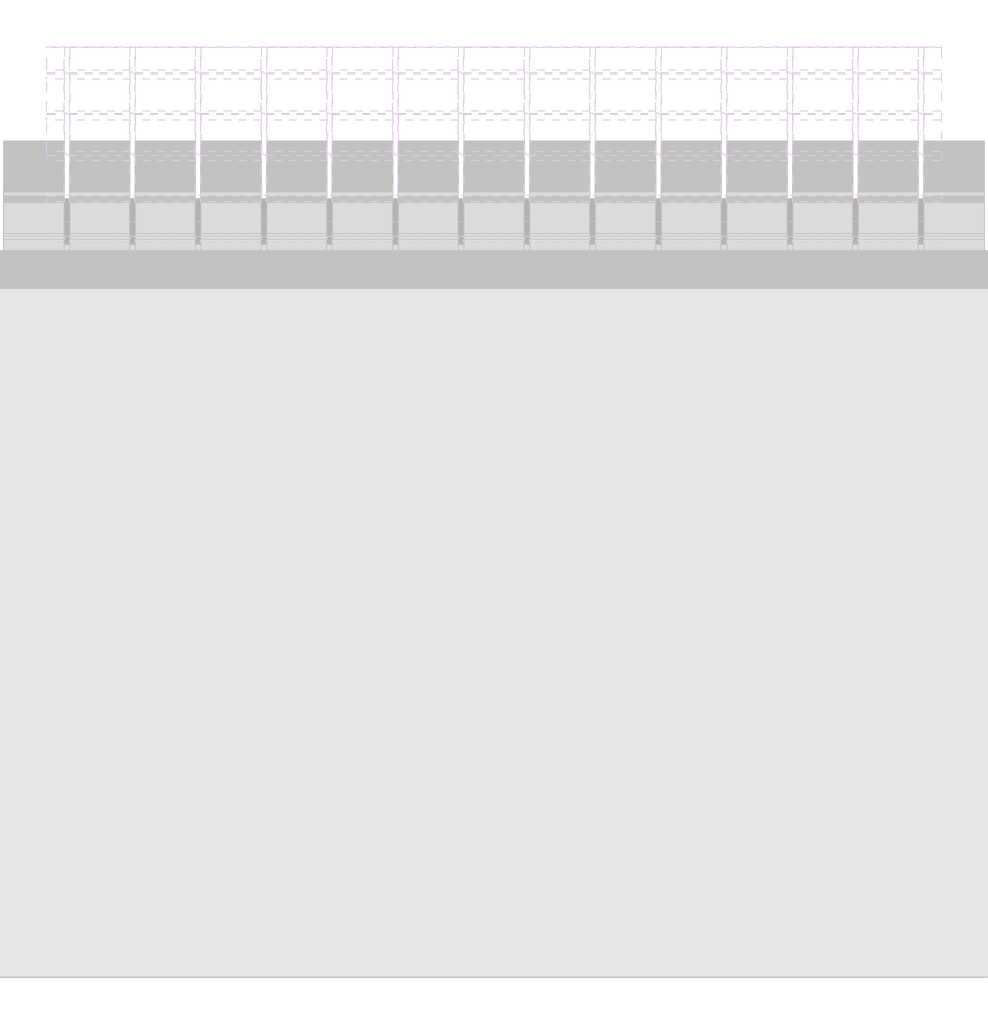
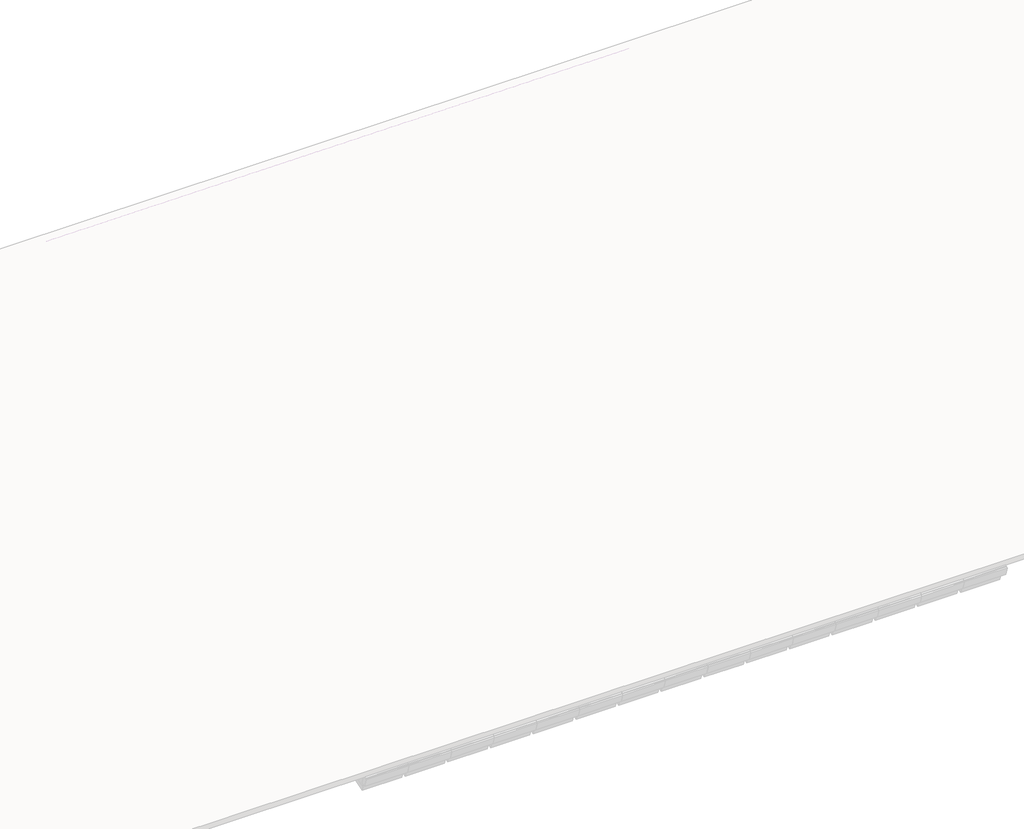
# One storey, part 18 of 57: 77 members, 47 plates.
"""IFC4 building model written with IfcOpenShell, lengths in millimetres."""

from ifc_helpers import new_model, si_unit, origin, place, context, project, spatial, transform, mapped, element, save
from components import rectangular_mullion_59984080, rectangular_mullion_2d2423ea, rectangular_mullion_caibro_e4384bba, rectangular_mullion_caibro_0993a3cf, rectangular_mullion_caibro_9bd7bc61, empty_system_panel_vazio_178faf58, empty_system_panel_vazio_2c78850d

model = new_model("IFC4")

# Units and contexts
model_context = context("Model", 3, world=origin())
ifc_project = project(units=[si_unit("LENGTHUNIT", "METRE", prefix="MILLI")], contexts=[model_context])

# Site, building, storey
site = spatial("IfcSite", under=ifc_project)
building = spatial("IfcBuilding", under=site)
storey = spatial("IfcBuildingStorey", under=building, Name="Nível 2", Elevation=4100.0)

# Members
placement = place(None, origin())
rectangular_mullion_shape = rectangular_mullion_59984080(model_context)
element("IfcMember", 1, ObjectType="Rectangular Mullion : Ripa", at=placement, inside=storey, context=model_context, shape_type="MappedRepresentation", body=[
    mapped(rectangular_mullion_shape, transform((14911.8852935, 9273.1150454, 3931.9836922), x_axis=(0.0, 0.9578262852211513, 0.2873478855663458), y_axis=(0.0, 0.2873478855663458, -0.9578262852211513), z_axis=(-1.0, 0.0, 0.0))),
])
element("IfcMember", 2, ObjectType="Rectangular Mullion : Ripa", at=placement, inside=storey, context=model_context, shape_type="MappedRepresentation", body=[
    mapped(rectangular_mullion_shape, transform((15508.9400499, 9273.1150454, 3931.9836922), x_axis=(0.0, 0.9578262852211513, 0.2873478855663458), y_axis=(0.0, 0.2873478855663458, -0.9578262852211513), z_axis=(-1.0, 0.0, 0.0))),
])
element("IfcMember", 3, ObjectType="Rectangular Mullion : Ripa", at=placement, inside=storey, context=model_context, shape_type="MappedRepresentation", body=[
    mapped(rectangular_mullion_shape, transform((14314.8305371, 9643.2923041, 4043.0368698), x_axis=(0.0, 0.9578262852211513, 0.2873478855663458), y_axis=(0.0, 0.2873478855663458, -0.9578262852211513), z_axis=(-1.0, 0.0, 0.0))),
])
element("IfcMember", 4, ObjectType="Rectangular Mullion : Ripa", at=placement, inside=storey, context=model_context, shape_type="MappedRepresentation", body=[
    mapped(rectangular_mullion_shape, transform((14911.8852935, 9643.2923041, 4043.0368698), x_axis=(0.0, 0.9578262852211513, 0.2873478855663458), y_axis=(0.0, 0.2873478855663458, -0.9578262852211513), z_axis=(-1.0, 0.0, 0.0))),
])
element("IfcMember", 5, ObjectType="Rectangular Mullion : Ripa", at=placement, inside=storey, context=model_context, shape_type="MappedRepresentation", body=[
    mapped(rectangular_mullion_shape, transform((15508.9400499, 9643.2923041, 4043.0368698), x_axis=(0.0, 0.9578262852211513, 0.2873478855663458), y_axis=(0.0, 0.2873478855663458, -0.9578262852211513), z_axis=(-1.0, 0.0, 0.0))),
])
element("IfcMember", 6, ObjectType="Rectangular Mullion : Ripa", at=placement, inside=storey, context=model_context, shape_type="MappedRepresentation", body=[
    mapped(rectangular_mullion_shape, transform((12523.6662678, 10013.4695628, 4154.0900474), x_axis=(0.0, 0.9578262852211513, 0.2873478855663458), y_axis=(0.0, 0.2873478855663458, -0.9578262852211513), z_axis=(-1.0, 0.0, 0.0))),
])
element("IfcMember", 7, ObjectType="Rectangular Mullion : Ripa", at=placement, inside=storey, context=model_context, shape_type="MappedRepresentation", body=[
    mapped(rectangular_mullion_shape, transform((13120.7210242, 10013.4695628, 4154.0900474), x_axis=(0.0, 0.9578262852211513, 0.2873478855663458), y_axis=(0.0, 0.2873478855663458, -0.9578262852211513), z_axis=(-1.0, 0.0, 0.0))),
])
element("IfcMember", 8, ObjectType="Rectangular Mullion : Ripa", at=placement, inside=storey, context=model_context, shape_type="MappedRepresentation", body=[
    mapped(rectangular_mullion_shape, transform((13717.7757807, 10013.4695628, 4154.0900474), x_axis=(0.0, 0.9578262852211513, 0.2873478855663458), y_axis=(0.0, 0.2873478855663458, -0.9578262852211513), z_axis=(-1.0, 0.0, 0.0))),
])
element("IfcMember", 9, ObjectType="Rectangular Mullion : Ripa", at=placement, inside=storey, context=model_context, shape_type="MappedRepresentation", body=[
    mapped(rectangular_mullion_shape, transform((14314.8305371, 10013.4695628, 4154.0900474), x_axis=(0.0, 0.9578262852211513, 0.2873478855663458), y_axis=(0.0, 0.2873478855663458, -0.9578262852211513), z_axis=(-1.0, 0.0, 0.0))),
])
element("IfcMember", 10, ObjectType="Rectangular Mullion : Ripa", at=placement, inside=storey, context=model_context, shape_type="MappedRepresentation", body=[
    mapped(rectangular_mullion_shape, transform((14911.8852935, 10013.4695628, 4154.0900474), x_axis=(0.0, 0.9578262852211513, 0.2873478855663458), y_axis=(0.0, 0.2873478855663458, -0.9578262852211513), z_axis=(-1.0, 0.0, 0.0))),
])
element("IfcMember", 11, ObjectType="Rectangular Mullion : Ripa", at=placement, inside=storey, context=model_context, shape_type="MappedRepresentation", body=[
    mapped(rectangular_mullion_shape, transform((15508.9400499, 10013.4695628, 4154.0900474), x_axis=(0.0, 0.9578262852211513, 0.2873478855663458), y_axis=(0.0, 0.2873478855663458, -0.9578262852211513), z_axis=(-1.0, 0.0, 0.0))),
])
element("IfcMember", 12, ObjectType="Rectangular Mullion : Ripa", at=placement, inside=storey, context=model_context, shape_type="MappedRepresentation", body=[
    mapped(rectangular_mullion_shape, transform((12523.6662678, 10383.6468214, 4265.143225), x_axis=(0.0, 0.9578262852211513, 0.2873478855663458), y_axis=(0.0, 0.2873478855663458, -0.9578262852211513), z_axis=(-1.0, 0.0, 0.0))),
])
element("IfcMember", 13, ObjectType="Rectangular Mullion : Ripa", at=placement, inside=storey, context=model_context, shape_type="MappedRepresentation", body=[
    mapped(rectangular_mullion_shape, transform((13120.7210242, 10383.6468214, 4265.143225), x_axis=(0.0, 0.9578262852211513, 0.2873478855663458), y_axis=(0.0, 0.2873478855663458, -0.9578262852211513), z_axis=(-1.0, 0.0, 0.0))),
])
element("IfcMember", 14, ObjectType="Rectangular Mullion : Ripa", at=placement, inside=storey, context=model_context, shape_type="MappedRepresentation", body=[
    mapped(rectangular_mullion_shape, transform((13717.7757807, 10383.6468214, 4265.143225), x_axis=(0.0, 0.9578262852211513, 0.2873478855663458), y_axis=(0.0, 0.2873478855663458, -0.9578262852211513), z_axis=(-1.0, 0.0, 0.0))),
])
element("IfcMember", 15, ObjectType="Rectangular Mullion : Ripa", at=placement, inside=storey, context=model_context, shape_type="MappedRepresentation", body=[
    mapped(rectangular_mullion_shape, transform((14314.8305371, 10383.6468214, 4265.143225), x_axis=(0.0, 0.9578262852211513, 0.2873478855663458), y_axis=(0.0, 0.2873478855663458, -0.9578262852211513), z_axis=(-1.0, 0.0, 0.0))),
])
element("IfcMember", 16, ObjectType="Rectangular Mullion : Ripa", at=placement, inside=storey, context=model_context, shape_type="MappedRepresentation", body=[
    mapped(rectangular_mullion_shape, transform((14911.8852935, 10383.6468214, 4265.143225), x_axis=(0.0, 0.9578262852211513, 0.2873478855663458), y_axis=(0.0, 0.2873478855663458, -0.9578262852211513), z_axis=(-1.0, 0.0, 0.0))),
])
element("IfcMember", 17, ObjectType="Rectangular Mullion : Ripa", at=placement, inside=storey, context=model_context, shape_type="MappedRepresentation", body=[
    mapped(rectangular_mullion_shape, transform((15508.9400499, 10383.6468214, 4265.143225), x_axis=(0.0, 0.9578262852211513, 0.2873478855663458), y_axis=(0.0, 0.2873478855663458, -0.9578262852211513), z_axis=(-1.0, 0.0, 0.0))),
])
element("IfcMember", 18, ObjectType="Rectangular Mullion : Ripa", at=placement, inside=storey, context=model_context, shape_type="MappedRepresentation", body=[
    mapped(rectangular_mullion_shape, transform((12523.6662678, 10753.8240801, 4376.1964026), x_axis=(0.0, 0.9578262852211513, 0.2873478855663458), y_axis=(0.0, 0.2873478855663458, -0.9578262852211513), z_axis=(-1.0, 0.0, 0.0))),
])
element("IfcMember", 19, ObjectType="Rectangular Mullion : Ripa", at=placement, inside=storey, context=model_context, shape_type="MappedRepresentation", body=[
    mapped(rectangular_mullion_shape, transform((13120.7210242, 10753.8240801, 4376.1964026), x_axis=(0.0, 0.9578262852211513, 0.2873478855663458), y_axis=(0.0, 0.2873478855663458, -0.9578262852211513), z_axis=(-1.0, 0.0, 0.0))),
])
element("IfcMember", 20, ObjectType="Rectangular Mullion : Ripa", at=placement, inside=storey, context=model_context, shape_type="MappedRepresentation", body=[
    mapped(rectangular_mullion_shape, transform((13717.7757807, 10753.8240801, 4376.1964026), x_axis=(0.0, 0.9578262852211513, 0.2873478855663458), y_axis=(0.0, 0.2873478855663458, -0.9578262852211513), z_axis=(-1.0, 0.0, 0.0))),
])
element("IfcMember", 21, ObjectType="Rectangular Mullion : Ripa", at=placement, inside=storey, context=model_context, shape_type="MappedRepresentation", body=[
    mapped(rectangular_mullion_shape, transform((14314.8305371, 10753.8240801, 4376.1964026), x_axis=(0.0, 0.9578262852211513, 0.2873478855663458), y_axis=(0.0, 0.2873478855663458, -0.9578262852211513), z_axis=(-1.0, 0.0, 0.0))),
])
element("IfcMember", 22, ObjectType="Rectangular Mullion : Ripa", at=placement, inside=storey, context=model_context, shape_type="MappedRepresentation", body=[
    mapped(rectangular_mullion_shape, transform((14911.8852935, 10753.8240801, 4376.1964026), x_axis=(0.0, 0.9578262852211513, 0.2873478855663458), y_axis=(0.0, 0.2873478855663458, -0.9578262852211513), z_axis=(-1.0, 0.0, 0.0))),
])
element("IfcMember", 23, ObjectType="Rectangular Mullion : Ripa", at=placement, inside=storey, context=model_context, shape_type="MappedRepresentation", body=[
    mapped(rectangular_mullion_shape, transform((15508.9400499, 10753.8240801, 4376.1964026), x_axis=(0.0, 0.9578262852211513, 0.2873478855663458), y_axis=(0.0, 0.2873478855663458, -0.9578262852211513), z_axis=(-1.0, 0.0, 0.0))),
])
element("IfcMember", 24, ObjectType="Rectangular Mullion : Ripa", at=placement, inside=storey, context=model_context, shape_type="MappedRepresentation", body=[
    mapped(rectangular_mullion_shape, transform((12523.6662678, 11124.0013387, 4487.2495802), x_axis=(0.0, 0.9578262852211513, 0.2873478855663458), y_axis=(0.0, 0.2873478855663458, -0.9578262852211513), z_axis=(-1.0, 0.0, 0.0))),
])
element("IfcMember", 25, ObjectType="Rectangular Mullion : Ripa", at=placement, inside=storey, context=model_context, shape_type="MappedRepresentation", body=[
    mapped(rectangular_mullion_shape, transform((13120.7210242, 11124.0013387, 4487.2495802), x_axis=(0.0, 0.9578262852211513, 0.2873478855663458), y_axis=(0.0, 0.2873478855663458, -0.9578262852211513), z_axis=(-1.0, 0.0, 0.0))),
])
element("IfcMember", 26, ObjectType="Rectangular Mullion : Ripa", at=placement, inside=storey, context=model_context, shape_type="MappedRepresentation", body=[
    mapped(rectangular_mullion_shape, transform((13717.7757807, 11124.0013387, 4487.2495802), x_axis=(0.0, 0.9578262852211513, 0.2873478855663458), y_axis=(0.0, 0.2873478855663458, -0.9578262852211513), z_axis=(-1.0, 0.0, 0.0))),
])
element("IfcMember", 27, ObjectType="Rectangular Mullion : Ripa", at=placement, inside=storey, context=model_context, shape_type="MappedRepresentation", body=[
    mapped(rectangular_mullion_shape, transform((12523.6662678, 11494.1785974, 4598.3027578), x_axis=(0.0, 0.9578262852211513, 0.2873478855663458), y_axis=(0.0, 0.2873478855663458, -0.9578262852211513), z_axis=(-1.0, 0.0, 0.0))),
])
element("IfcMember", 28, ObjectType="Rectangular Mullion : Ripa", at=placement, inside=storey, context=model_context, shape_type="MappedRepresentation", body=[
    mapped(rectangular_mullion_shape, transform((13120.7210242, 11494.1785974, 4598.3027578), x_axis=(0.0, 0.9578262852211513, 0.2873478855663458), y_axis=(0.0, 0.2873478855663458, -0.9578262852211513), z_axis=(-1.0, 0.0, 0.0))),
])
element("IfcMember", 29, ObjectType="Rectangular Mullion : Ripa", at=placement, inside=storey, context=model_context, shape_type="MappedRepresentation", body=[
    mapped(rectangular_mullion_shape, transform((13717.7757807, 11494.1785974, 4598.3027578), x_axis=(0.0, 0.9578262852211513, 0.2873478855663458), y_axis=(0.0, 0.2873478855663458, -0.9578262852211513), z_axis=(-1.0, 0.0, 0.0))),
])
element("IfcMember", 30, ObjectType="Rectangular Mullion : Ripa", at=placement, inside=storey, context=model_context, shape_type="MappedRepresentation", body=[
    mapped(rectangular_mullion_shape, transform((12523.6662678, 11864.3558561, 4709.3559354), x_axis=(0.0, 0.9578262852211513, 0.2873478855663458), y_axis=(0.0, 0.2873478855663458, -0.9578262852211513), z_axis=(-1.0, 0.0, 0.0))),
])
element("IfcMember", 31, ObjectType="Rectangular Mullion : Ripa", at=placement, inside=storey, context=model_context, shape_type="MappedRepresentation", body=[
    mapped(rectangular_mullion_shape, transform((13120.7210242, 11864.3558561, 4709.3559354), x_axis=(0.0, 0.9578262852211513, 0.2873478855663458), y_axis=(0.0, 0.2873478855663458, -0.9578262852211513), z_axis=(-1.0, 0.0, 0.0))),
])
element("IfcMember", 32, ObjectType="Rectangular Mullion : Ripa", at=placement, inside=storey, context=model_context, shape_type="MappedRepresentation", body=[
    mapped(rectangular_mullion_shape, transform((13717.7757807, 11864.3558561, 4709.3559354), x_axis=(0.0, 0.9578262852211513, 0.2873478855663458), y_axis=(0.0, 0.2873478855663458, -0.9578262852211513), z_axis=(-1.0, 0.0, 0.0))),
])
rectangular_mullion_2_shape = rectangular_mullion_2d2423ea(model_context)
element("IfcMember", 33, ObjectType="Rectangular Mullion : Terça", at=placement, inside=storey, context=model_context, shape_type="MappedRepresentation", body=[
    mapped(rectangular_mullion_2_shape, transform((14314.8305371, 9159.0196393, 3835.1132313), x_axis=(0.0, 0.9578262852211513, 0.2873478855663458), y_axis=(0.0, 0.2873478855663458, -0.9578262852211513), z_axis=(-1.0, 0.0, 0.0))),
])
element("IfcMember", 34, ObjectType="Rectangular Mullion : Terça", at=placement, inside=storey, context=model_context, shape_type="MappedRepresentation", body=[
    mapped(rectangular_mullion_2_shape, transform((14911.8852935, 9159.0196393, 3835.1132313), x_axis=(0.0, 0.9578262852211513, 0.2873478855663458), y_axis=(0.0, 0.2873478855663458, -0.9578262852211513), z_axis=(-1.0, 0.0, 0.0))),
])
element("IfcMember", 35, ObjectType="Rectangular Mullion : Terça", at=placement, inside=storey, context=model_context, shape_type="MappedRepresentation", body=[
    mapped(rectangular_mullion_2_shape, transform((15508.9400499, 9159.0196393, 3835.1132313), x_axis=(0.0, 0.9578262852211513, 0.2873478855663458), y_axis=(0.0, 0.2873478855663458, -0.9578262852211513), z_axis=(-1.0, 0.0, 0.0))),
])
element("IfcMember", 36, ObjectType="Rectangular Mullion : Terça", at=placement, inside=storey, context=model_context, shape_type="MappedRepresentation", body=[
    mapped(rectangular_mullion_2_shape, transform((12523.6662678, 11285.144311, 4472.9506328), x_axis=(0.0, 0.9578262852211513, 0.2873478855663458), y_axis=(0.0, 0.2873478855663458, -0.9578262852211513), z_axis=(-1.0, 0.0, 0.0))),
])
element("IfcMember", 37, ObjectType="Rectangular Mullion : Terça", at=placement, inside=storey, context=model_context, shape_type="MappedRepresentation", body=[
    mapped(rectangular_mullion_2_shape, transform((13120.7210242, 11285.144311, 4472.9506328), x_axis=(0.0, 0.9578262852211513, 0.2873478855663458), y_axis=(0.0, 0.2873478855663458, -0.9578262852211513), z_axis=(-1.0, 0.0, 0.0))),
])
element("IfcMember", 38, ObjectType="Rectangular Mullion : Terça", at=placement, inside=storey, context=model_context, shape_type="MappedRepresentation", body=[
    mapped(rectangular_mullion_2_shape, transform((13717.7757807, 11285.144311, 4472.9506328), x_axis=(0.0, 0.9578262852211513, 0.2873478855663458), y_axis=(0.0, 0.2873478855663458, -0.9578262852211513), z_axis=(-1.0, 0.0, 0.0))),
])
rectangular_mullion_caibro_shape = rectangular_mullion_caibro_e4384bba(model_context)
element("IfcMember", 39, ObjectType="Rectangular Mullion : Caibro", at=placement, inside=storey, context=model_context, shape_type="MappedRepresentation", body=[
    mapped(rectangular_mullion_caibro_shape, transform((12498.6662678, 10013.4695628, 4154.0900474), x_axis=(1.0, 0.0, 0.0), y_axis=(0.0, 0.28734788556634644, -0.9578262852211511), z_axis=(0.0, 0.957826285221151, 0.2873478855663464))),
])
element("IfcMember", 40, ObjectType="Rectangular Mullion : Caibro", at=placement, inside=storey, context=model_context, shape_type="MappedRepresentation", body=[
    mapped(rectangular_mullion_caibro_shape, transform((12498.6662678, 10383.6468214, 4265.143225), x_axis=(1.0, 0.0, 0.0), y_axis=(0.0, 0.28734788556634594, -0.9578262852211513), z_axis=(0.0, 0.9578262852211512, 0.2873478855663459))),
])
element("IfcMember", 41, ObjectType="Rectangular Mullion : Caibro", at=placement, inside=storey, context=model_context, shape_type="MappedRepresentation", body=[
    mapped(rectangular_mullion_caibro_shape, transform((12498.6662678, 10753.8240801, 4376.1964026), x_axis=(1.0, 0.0, 0.0), y_axis=(0.0, 0.28734788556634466, -0.9578262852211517), z_axis=(0.0, 0.9578262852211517, 0.28734788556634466))),
])
element("IfcMember", 42, ObjectType="Rectangular Mullion : Caibro", at=placement, inside=storey, context=model_context, shape_type="MappedRepresentation", body=[
    mapped(rectangular_mullion_caibro_shape, transform((12498.6662678, 11124.0013387, 4487.2495802), x_axis=(1.0, 0.0, 0.0), y_axis=(0.0, 0.2873478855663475, -0.9578262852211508), z_axis=(0.0, 0.9578262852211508, 0.2873478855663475))),
])
element("IfcMember", 43, ObjectType="Rectangular Mullion : Caibro", at=placement, inside=storey, context=model_context, shape_type="MappedRepresentation", body=[
    mapped(rectangular_mullion_caibro_shape, transform((12498.6662678, 11494.1785974, 4598.3027578), x_axis=(1.0, 0.0, 0.0), y_axis=(0.0, 0.28734788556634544, -0.9578262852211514), z_axis=(0.0, 0.9578262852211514, 0.28734788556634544))),
])
element("IfcMember", 44, ObjectType="Rectangular Mullion : Caibro", at=placement, inside=storey, context=model_context, shape_type="MappedRepresentation", body=[
    mapped(rectangular_mullion_caibro_shape, transform((12498.6662678, 11864.3558561, 4709.3559354), x_axis=(1.0, 0.0, 0.0), y_axis=(0.0, 0.28734788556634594, -0.9578262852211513), z_axis=(0.0, 0.9578262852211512, 0.2873478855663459))),
])
element("IfcMember", 45, ObjectType="Rectangular Mullion : Caibro", at=placement, inside=storey, context=model_context, shape_type="MappedRepresentation", body=[
    mapped(rectangular_mullion_caibro_shape, transform((13095.7210242, 10013.4695628, 4154.0900474), x_axis=(1.0, 0.0, 0.0), y_axis=(0.0, 0.28734788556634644, -0.9578262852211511), z_axis=(0.0, 0.957826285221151, 0.2873478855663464))),
])
element("IfcMember", 46, ObjectType="Rectangular Mullion : Caibro", at=placement, inside=storey, context=model_context, shape_type="MappedRepresentation", body=[
    mapped(rectangular_mullion_caibro_shape, transform((13095.7210242, 10383.6468214, 4265.143225), x_axis=(1.0, 0.0, 0.0), y_axis=(0.0, 0.28734788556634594, -0.9578262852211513), z_axis=(0.0, 0.9578262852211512, 0.2873478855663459))),
])
element("IfcMember", 47, ObjectType="Rectangular Mullion : Caibro", at=placement, inside=storey, context=model_context, shape_type="MappedRepresentation", body=[
    mapped(rectangular_mullion_caibro_shape, transform((13095.7210242, 10753.8240801, 4376.1964026), x_axis=(1.0, 0.0, 0.0), y_axis=(0.0, 0.28734788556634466, -0.9578262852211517), z_axis=(0.0, 0.9578262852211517, 0.28734788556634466))),
])
element("IfcMember", 48, ObjectType="Rectangular Mullion : Caibro", at=placement, inside=storey, context=model_context, shape_type="MappedRepresentation", body=[
    mapped(rectangular_mullion_caibro_shape, transform((13095.7210242, 11124.0013387, 4487.2495802), x_axis=(1.0, 0.0, 0.0), y_axis=(0.0, 0.2873478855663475, -0.9578262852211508), z_axis=(0.0, 0.9578262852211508, 0.2873478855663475))),
])
element("IfcMember", 49, ObjectType="Rectangular Mullion : Caibro", at=placement, inside=storey, context=model_context, shape_type="MappedRepresentation", body=[
    mapped(rectangular_mullion_caibro_shape, transform((13095.7210242, 11494.1785974, 4598.3027578), x_axis=(1.0, 0.0, 0.0), y_axis=(0.0, 0.28734788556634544, -0.9578262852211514), z_axis=(0.0, 0.9578262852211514, 0.28734788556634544))),
])
element("IfcMember", 50, ObjectType="Rectangular Mullion : Caibro", at=placement, inside=storey, context=model_context, shape_type="MappedRepresentation", body=[
    mapped(rectangular_mullion_caibro_shape, transform((13095.7210242, 11864.3558561, 4709.3559354), x_axis=(1.0, 0.0, 0.0), y_axis=(0.0, 0.28734788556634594, -0.9578262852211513), z_axis=(0.0, 0.9578262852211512, 0.2873478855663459))),
])
element("IfcMember", 51, ObjectType="Rectangular Mullion : Caibro", at=placement, inside=storey, context=model_context, shape_type="MappedRepresentation", body=[
    mapped(rectangular_mullion_caibro_shape, transform((13692.7757807, 10013.4695628, 4154.0900474), x_axis=(1.0, 0.0, 0.0), y_axis=(0.0, 0.28734788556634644, -0.9578262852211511), z_axis=(0.0, 0.957826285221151, 0.2873478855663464))),
])
element("IfcMember", 52, ObjectType="Rectangular Mullion : Caibro", at=placement, inside=storey, context=model_context, shape_type="MappedRepresentation", body=[
    mapped(rectangular_mullion_caibro_shape, transform((13692.7757807, 10383.6468214, 4265.143225), x_axis=(1.0, 0.0, 0.0), y_axis=(0.0, 0.28734788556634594, -0.9578262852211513), z_axis=(0.0, 0.9578262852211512, 0.2873478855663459))),
])
element("IfcMember", 53, ObjectType="Rectangular Mullion : Caibro", at=placement, inside=storey, context=model_context, shape_type="MappedRepresentation", body=[
    mapped(rectangular_mullion_caibro_shape, transform((13692.7757807, 10753.8240801, 4376.1964026), x_axis=(1.0, 0.0, 0.0), y_axis=(0.0, 0.28734788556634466, -0.9578262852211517), z_axis=(0.0, 0.9578262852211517, 0.28734788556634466))),
])
element("IfcMember", 54, ObjectType="Rectangular Mullion : Caibro", at=placement, inside=storey, context=model_context, shape_type="MappedRepresentation", body=[
    mapped(rectangular_mullion_caibro_shape, transform((13692.7757807, 11124.0013387, 4487.2495802), x_axis=(1.0, 0.0, 0.0), y_axis=(0.0, 0.2873478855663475, -0.9578262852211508), z_axis=(0.0, 0.9578262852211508, 0.2873478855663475))),
])
element("IfcMember", 55, ObjectType="Rectangular Mullion : Caibro", at=placement, inside=storey, context=model_context, shape_type="MappedRepresentation", body=[
    mapped(rectangular_mullion_caibro_shape, transform((13692.7757807, 11494.1785974, 4598.3027578), x_axis=(1.0, 0.0, 0.0), y_axis=(0.0, 0.28734788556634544, -0.9578262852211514), z_axis=(0.0, 0.9578262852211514, 0.28734788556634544))),
])
element("IfcMember", 56, ObjectType="Rectangular Mullion : Caibro", at=placement, inside=storey, context=model_context, shape_type="MappedRepresentation", body=[
    mapped(rectangular_mullion_caibro_shape, transform((13692.7757807, 11864.3558561, 4709.3559354), x_axis=(1.0, 0.0, 0.0), y_axis=(0.0, 0.28734788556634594, -0.9578262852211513), z_axis=(0.0, 0.9578262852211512, 0.2873478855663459))),
])
element("IfcMember", 57, ObjectType="Rectangular Mullion : Caibro", at=placement, inside=storey, context=model_context, shape_type="MappedRepresentation", body=[
    mapped(rectangular_mullion_caibro_shape, transform((14289.8305371, 10013.4695628, 4154.0900474), x_axis=(1.0, 0.0, 0.0), y_axis=(0.0, 0.28734788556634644, -0.9578262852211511), z_axis=(0.0, 0.957826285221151, 0.2873478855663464))),
])
element("IfcMember", 58, ObjectType="Rectangular Mullion : Caibro", at=placement, inside=storey, context=model_context, shape_type="MappedRepresentation", body=[
    mapped(rectangular_mullion_caibro_shape, transform((14289.8305371, 10383.6468214, 4265.143225), x_axis=(1.0, 0.0, 0.0), y_axis=(0.0, 0.28734788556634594, -0.9578262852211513), z_axis=(0.0, 0.9578262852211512, 0.2873478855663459))),
])
element("IfcMember", 59, ObjectType="Rectangular Mullion : Caibro", at=placement, inside=storey, context=model_context, shape_type="MappedRepresentation", body=[
    mapped(rectangular_mullion_caibro_shape, transform((14289.8305371, 10753.8240801, 4376.1964026), x_axis=(1.0, 0.0, 0.0), y_axis=(0.0, 0.28734788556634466, -0.9578262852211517), z_axis=(0.0, 0.9578262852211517, 0.28734788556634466))),
])
element("IfcMember", 60, ObjectType="Rectangular Mullion : Caibro", at=placement, inside=storey, context=model_context, shape_type="MappedRepresentation", body=[
    mapped(rectangular_mullion_caibro_shape, transform((14289.8305371, 11124.0013387, 4487.2495802), x_axis=(1.0, 0.0, 0.0), y_axis=(0.0, 0.2873478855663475, -0.9578262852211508), z_axis=(0.0, 0.9578262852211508, 0.2873478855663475))),
])
element("IfcMember", 61, ObjectType="Rectangular Mullion : Caibro", at=placement, inside=storey, context=model_context, shape_type="MappedRepresentation", body=[
    mapped(rectangular_mullion_caibro_shape, transform((14289.8305371, 11494.1785974, 4598.3027578), x_axis=(1.0, 0.0, 0.0), y_axis=(0.0, 0.28734788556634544, -0.9578262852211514), z_axis=(0.0, 0.9578262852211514, 0.28734788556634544))),
])
element("IfcMember", 62, ObjectType="Rectangular Mullion : Caibro", at=placement, inside=storey, context=model_context, shape_type="MappedRepresentation", body=[
    mapped(rectangular_mullion_caibro_shape, transform((14289.8305371, 11864.3558561, 4709.3559354), x_axis=(1.0, 0.0, 0.0), y_axis=(0.0, 0.28734788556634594, -0.9578262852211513), z_axis=(0.0, 0.9578262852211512, 0.2873478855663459))),
])
element("IfcMember", 63, ObjectType="Rectangular Mullion : Caibro", at=placement, inside=storey, context=model_context, shape_type="MappedRepresentation", body=[
    mapped(rectangular_mullion_caibro_shape, transform((14886.8852935, 10013.4695628, 4154.0900474), x_axis=(1.0, 0.0, 0.0), y_axis=(0.0, 0.28734788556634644, -0.9578262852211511), z_axis=(0.0, 0.957826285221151, 0.2873478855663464))),
])
element("IfcMember", 64, ObjectType="Rectangular Mullion : Caibro", at=placement, inside=storey, context=model_context, shape_type="MappedRepresentation", body=[
    mapped(rectangular_mullion_caibro_shape, transform((14886.8852935, 10383.6468214, 4265.143225), x_axis=(1.0, 0.0, 0.0), y_axis=(0.0, 0.28734788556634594, -0.9578262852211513), z_axis=(0.0, 0.9578262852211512, 0.2873478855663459))),
])
element("IfcMember", 65, ObjectType="Rectangular Mullion : Caibro", at=placement, inside=storey, context=model_context, shape_type="MappedRepresentation", body=[
    mapped(rectangular_mullion_caibro_shape, transform((14886.8852935, 10753.8240801, 4376.1964026), x_axis=(1.0, 0.0, 0.0), y_axis=(0.0, 0.28734788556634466, -0.9578262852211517), z_axis=(0.0, 0.9578262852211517, 0.28734788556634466))),
])
element("IfcMember", 66, ObjectType="Rectangular Mullion : Caibro", at=placement, inside=storey, context=model_context, shape_type="MappedRepresentation", body=[
    mapped(rectangular_mullion_caibro_shape, transform((14886.8852935, 11124.0013387, 4487.2495802), x_axis=(1.0, 0.0, 0.0), y_axis=(0.0, 0.2873478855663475, -0.9578262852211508), z_axis=(0.0, 0.9578262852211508, 0.2873478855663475))),
])
element("IfcMember", 67, ObjectType="Rectangular Mullion : Caibro", at=placement, inside=storey, context=model_context, shape_type="MappedRepresentation", body=[
    mapped(rectangular_mullion_caibro_shape, transform((15483.9400499, 9273.1150454, 3931.9836922), x_axis=(1.0, 0.0, 0.0), y_axis=(0.0, 0.2873478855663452, -0.9578262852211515), z_axis=(0.0, 0.9578262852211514, 0.28734788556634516))),
])
element("IfcMember", 68, ObjectType="Rectangular Mullion : Caibro", at=placement, inside=storey, context=model_context, shape_type="MappedRepresentation", body=[
    mapped(rectangular_mullion_caibro_shape, transform((15483.9400499, 9643.2923041, 4043.0368698), x_axis=(1.0, 0.0, 0.0), y_axis=(0.0, 0.2873478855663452, -0.9578262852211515), z_axis=(0.0, 0.9578262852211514, 0.28734788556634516))),
])
element("IfcMember", 69, ObjectType="Rectangular Mullion : Caibro", at=placement, inside=storey, context=model_context, shape_type="MappedRepresentation", body=[
    mapped(rectangular_mullion_caibro_shape, transform((15483.9400499, 10013.4695628, 4154.0900474), x_axis=(1.0, 0.0, 0.0), y_axis=(0.0, 0.28734788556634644, -0.9578262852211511), z_axis=(0.0, 0.957826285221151, 0.2873478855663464))),
])
element("IfcMember", 70, ObjectType="Rectangular Mullion : Caibro", at=placement, inside=storey, context=model_context, shape_type="MappedRepresentation", body=[
    mapped(rectangular_mullion_caibro_shape, transform((15483.9400499, 10383.6468214, 4265.143225), x_axis=(1.0, 0.0, 0.0), y_axis=(0.0, 0.28734788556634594, -0.9578262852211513), z_axis=(0.0, 0.9578262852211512, 0.2873478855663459))),
])
element("IfcMember", 71, ObjectType="Rectangular Mullion : Caibro", at=placement, inside=storey, context=model_context, shape_type="MappedRepresentation", body=[
    mapped(rectangular_mullion_caibro_shape, transform((15483.9400499, 10753.8240801, 4376.1964026), x_axis=(1.0, 0.0, 0.0), y_axis=(0.0, 0.28734788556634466, -0.9578262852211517), z_axis=(0.0, 0.9578262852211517, 0.28734788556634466))),
])
rectangular_mullion_caibro_2_shape = rectangular_mullion_caibro_0993a3cf(model_context)
element("IfcMember", 72, ObjectType="Rectangular Mullion : Caibro", at=placement, inside=storey, context=model_context, shape_type="MappedRepresentation", body=[
    mapped(rectangular_mullion_caibro_2_shape, transform((14289.8305371, 9159.0196393, 3835.1132313), x_axis=(1.0, 0.0, 0.0), y_axis=(0.0, 0.2873478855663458, -0.9578262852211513), z_axis=(0.0, 0.9578262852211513, 0.2873478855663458))),
])
element("IfcMember", 73, ObjectType="Rectangular Mullion : Caibro", at=placement, inside=storey, context=model_context, shape_type="MappedRepresentation", body=[
    mapped(rectangular_mullion_caibro_2_shape, transform((14886.8852935, 9159.0196393, 3835.1132313), x_axis=(1.0, 0.0, 0.0), y_axis=(0.0, 0.2873478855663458, -0.9578262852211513), z_axis=(0.0, 0.9578262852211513, 0.2873478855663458))),
])
element("IfcMember", 74, ObjectType="Rectangular Mullion : Caibro", at=placement, inside=storey, context=model_context, shape_type="MappedRepresentation", body=[
    mapped(rectangular_mullion_caibro_2_shape, transform((15483.9400499, 9159.0196393, 3835.1132313), x_axis=(1.0, 0.0, 0.0), y_axis=(0.0, 0.2873478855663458, -0.9578262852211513), z_axis=(0.0, 0.9578262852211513, 0.2873478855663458))),
])
rectangular_mullion_caibro_3_shape = rectangular_mullion_caibro_9bd7bc61(model_context)
element("IfcMember", 75, ObjectType="Rectangular Mullion : Caibro", at=placement, inside=storey, context=model_context, shape_type="MappedRepresentation", body=[
    mapped(rectangular_mullion_caibro_3_shape, transform((12498.6662678, 11285.144311, 4472.9506328), x_axis=(1.0, 0.0, 0.0), y_axis=(0.0, 0.28734788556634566, -0.9578262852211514), z_axis=(0.0, 0.9578262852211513, 0.2873478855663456))),
])
element("IfcMember", 76, ObjectType="Rectangular Mullion : Caibro", at=placement, inside=storey, context=model_context, shape_type="MappedRepresentation", body=[
    mapped(rectangular_mullion_caibro_3_shape, transform((13095.7210242, 11285.144311, 4472.9506328), x_axis=(1.0, 0.0, 0.0), y_axis=(0.0, 0.28734788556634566, -0.9578262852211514), z_axis=(0.0, 0.9578262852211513, 0.2873478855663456))),
])
element("IfcMember", 77, ObjectType="Rectangular Mullion : Caibro", at=placement, inside=storey, context=model_context, shape_type="MappedRepresentation", body=[
    mapped(rectangular_mullion_caibro_3_shape, transform((13692.7757807, 11285.144311, 4472.9506328), x_axis=(1.0, 0.0, 0.0), y_axis=(0.0, 0.28734788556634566, -0.9578262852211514), z_axis=(0.0, 0.9578262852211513, 0.2873478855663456))),
])

# Plates
empty_system_panel_vazio_shape = empty_system_panel_vazio_178faf58(model_context)
element("IfcPlate", 78, ObjectType="Empty System Panel : Vazio", at=placement, inside=storey, context=model_context, shape_type="MappedRepresentation", body=[
    mapped(empty_system_panel_vazio_shape, transform((15185.4126717, 9273.1150454, 3931.9836922), x_axis=(1.0, 0.0, 0.0), y_axis=(0.0, 0.2873478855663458, -0.9578262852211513), z_axis=(0.0, 0.9578262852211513, 0.2873478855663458))),
])
element("IfcPlate", 79, ObjectType="Empty System Panel : Vazio", at=placement, inside=storey, context=model_context, shape_type="MappedRepresentation", body=[
    mapped(empty_system_panel_vazio_shape, transform((15782.4674281, 9273.1150454, 3931.9836922), x_axis=(1.0, 0.0, 0.0), y_axis=(0.0, 0.2873478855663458, -0.9578262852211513), z_axis=(0.0, 0.9578262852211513, 0.2873478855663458))),
])
element("IfcPlate", 80, ObjectType="Empty System Panel : Vazio", at=placement, inside=storey, context=model_context, shape_type="MappedRepresentation", body=[
    mapped(empty_system_panel_vazio_shape, transform((15185.4126717, 9643.2923041, 4043.0368698), x_axis=(1.0, 0.0, 0.0), y_axis=(0.0, 0.2873478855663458, -0.9578262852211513), z_axis=(0.0, 0.9578262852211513, 0.2873478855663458))),
])
element("IfcPlate", 81, ObjectType="Empty System Panel : Vazio", at=placement, inside=storey, context=model_context, shape_type="MappedRepresentation", body=[
    mapped(empty_system_panel_vazio_shape, transform((15782.4674281, 9643.2923041, 4043.0368698), x_axis=(1.0, 0.0, 0.0), y_axis=(0.0, 0.2873478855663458, -0.9578262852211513), z_axis=(0.0, 0.9578262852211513, 0.2873478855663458))),
])
element("IfcPlate", 82, ObjectType="Empty System Panel : Vazio", at=placement, inside=storey, context=model_context, shape_type="MappedRepresentation", body=[
    mapped(empty_system_panel_vazio_shape, transform((12200.1388896, 10013.4695628, 4154.0900474), x_axis=(1.0, 0.0, 0.0), y_axis=(0.0, 0.2873478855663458, -0.9578262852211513), z_axis=(0.0, 0.9578262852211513, 0.2873478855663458))),
])
element("IfcPlate", 83, ObjectType="Empty System Panel : Vazio", at=placement, inside=storey, context=model_context, shape_type="MappedRepresentation", body=[
    mapped(empty_system_panel_vazio_shape, transform((12797.193646, 10013.4695628, 4154.0900474), x_axis=(1.0, 0.0, 0.0), y_axis=(0.0, 0.2873478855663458, -0.9578262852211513), z_axis=(0.0, 0.9578262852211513, 0.2873478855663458))),
])
element("IfcPlate", 84, ObjectType="Empty System Panel : Vazio", at=placement, inside=storey, context=model_context, shape_type="MappedRepresentation", body=[
    mapped(empty_system_panel_vazio_shape, transform((13394.2484024, 10013.4695628, 4154.0900474), x_axis=(1.0, 0.0, 0.0), y_axis=(0.0, 0.2873478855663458, -0.9578262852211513), z_axis=(0.0, 0.9578262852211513, 0.2873478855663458))),
])
element("IfcPlate", 85, ObjectType="Empty System Panel : Vazio", at=placement, inside=storey, context=model_context, shape_type="MappedRepresentation", body=[
    mapped(empty_system_panel_vazio_shape, transform((13991.3031589, 10013.4695628, 4154.0900474), x_axis=(1.0, 0.0, 0.0), y_axis=(0.0, 0.2873478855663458, -0.9578262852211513), z_axis=(0.0, 0.9578262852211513, 0.2873478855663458))),
])
element("IfcPlate", 86, ObjectType="Empty System Panel : Vazio", at=placement, inside=storey, context=model_context, shape_type="MappedRepresentation", body=[
    mapped(empty_system_panel_vazio_shape, transform((14588.3579153, 10013.4695628, 4154.0900474), x_axis=(1.0, 0.0, 0.0), y_axis=(0.0, 0.2873478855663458, -0.9578262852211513), z_axis=(0.0, 0.9578262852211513, 0.2873478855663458))),
])
element("IfcPlate", 87, ObjectType="Empty System Panel : Vazio", at=placement, inside=storey, context=model_context, shape_type="MappedRepresentation", body=[
    mapped(empty_system_panel_vazio_shape, transform((15185.4126717, 10013.4695628, 4154.0900474), x_axis=(1.0, 0.0, 0.0), y_axis=(0.0, 0.2873478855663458, -0.9578262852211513), z_axis=(0.0, 0.9578262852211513, 0.2873478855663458))),
])
element("IfcPlate", 88, ObjectType="Empty System Panel : Vazio", at=placement, inside=storey, context=model_context, shape_type="MappedRepresentation", body=[
    mapped(empty_system_panel_vazio_shape, transform((15782.4674281, 10013.4695628, 4154.0900474), x_axis=(1.0, 0.0, 0.0), y_axis=(0.0, 0.2873478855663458, -0.9578262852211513), z_axis=(0.0, 0.9578262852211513, 0.2873478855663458))),
])
element("IfcPlate", 89, ObjectType="Empty System Panel : Vazio", at=placement, inside=storey, context=model_context, shape_type="MappedRepresentation", body=[
    mapped(empty_system_panel_vazio_shape, transform((12200.1388896, 10383.6468214, 4265.143225), x_axis=(1.0, 0.0, 0.0), y_axis=(0.0, 0.2873478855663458, -0.9578262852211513), z_axis=(0.0, 0.9578262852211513, 0.2873478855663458))),
])
element("IfcPlate", 90, ObjectType="Empty System Panel : Vazio", at=placement, inside=storey, context=model_context, shape_type="MappedRepresentation", body=[
    mapped(empty_system_panel_vazio_shape, transform((12797.193646, 10383.6468214, 4265.143225), x_axis=(1.0, 0.0, 0.0), y_axis=(0.0, 0.2873478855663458, -0.9578262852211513), z_axis=(0.0, 0.9578262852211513, 0.2873478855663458))),
])
element("IfcPlate", 91, ObjectType="Empty System Panel : Vazio", at=placement, inside=storey, context=model_context, shape_type="MappedRepresentation", body=[
    mapped(empty_system_panel_vazio_shape, transform((13394.2484024, 10383.6468214, 4265.143225), x_axis=(1.0, 0.0, 0.0), y_axis=(0.0, 0.2873478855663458, -0.9578262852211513), z_axis=(0.0, 0.9578262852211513, 0.2873478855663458))),
])
element("IfcPlate", 92, ObjectType="Empty System Panel : Vazio", at=placement, inside=storey, context=model_context, shape_type="MappedRepresentation", body=[
    mapped(empty_system_panel_vazio_shape, transform((13991.3031589, 10383.6468214, 4265.143225), x_axis=(1.0, 0.0, 0.0), y_axis=(0.0, 0.2873478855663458, -0.9578262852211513), z_axis=(0.0, 0.9578262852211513, 0.2873478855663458))),
])
element("IfcPlate", 93, ObjectType="Empty System Panel : Vazio", at=placement, inside=storey, context=model_context, shape_type="MappedRepresentation", body=[
    mapped(empty_system_panel_vazio_shape, transform((14588.3579153, 10383.6468214, 4265.143225), x_axis=(1.0, 0.0, 0.0), y_axis=(0.0, 0.2873478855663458, -0.9578262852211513), z_axis=(0.0, 0.9578262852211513, 0.2873478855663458))),
])
element("IfcPlate", 94, ObjectType="Empty System Panel : Vazio", at=placement, inside=storey, context=model_context, shape_type="MappedRepresentation", body=[
    mapped(empty_system_panel_vazio_shape, transform((15185.4126717, 10383.6468214, 4265.143225), x_axis=(1.0, 0.0, 0.0), y_axis=(0.0, 0.2873478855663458, -0.9578262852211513), z_axis=(0.0, 0.9578262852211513, 0.2873478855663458))),
])
element("IfcPlate", 95, ObjectType="Empty System Panel : Vazio", at=placement, inside=storey, context=model_context, shape_type="MappedRepresentation", body=[
    mapped(empty_system_panel_vazio_shape, transform((15782.4674281, 10383.6468214, 4265.143225), x_axis=(1.0, 0.0, 0.0), y_axis=(0.0, 0.2873478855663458, -0.9578262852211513), z_axis=(0.0, 0.9578262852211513, 0.2873478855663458))),
])
element("IfcPlate", 96, ObjectType="Empty System Panel : Vazio", at=placement, inside=storey, context=model_context, shape_type="MappedRepresentation", body=[
    mapped(empty_system_panel_vazio_shape, transform((12200.1388896, 10753.8240801, 4376.1964026), x_axis=(1.0, 0.0, 0.0), y_axis=(0.0, 0.2873478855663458, -0.9578262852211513), z_axis=(0.0, 0.9578262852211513, 0.2873478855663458))),
])
element("IfcPlate", 97, ObjectType="Empty System Panel : Vazio", at=placement, inside=storey, context=model_context, shape_type="MappedRepresentation", body=[
    mapped(empty_system_panel_vazio_shape, transform((12797.193646, 10753.8240801, 4376.1964026), x_axis=(1.0, 0.0, 0.0), y_axis=(0.0, 0.2873478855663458, -0.9578262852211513), z_axis=(0.0, 0.9578262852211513, 0.2873478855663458))),
])
element("IfcPlate", 98, ObjectType="Empty System Panel : Vazio", at=placement, inside=storey, context=model_context, shape_type="MappedRepresentation", body=[
    mapped(empty_system_panel_vazio_shape, transform((13394.2484024, 10753.8240801, 4376.1964026), x_axis=(1.0, 0.0, 0.0), y_axis=(0.0, 0.2873478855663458, -0.9578262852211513), z_axis=(0.0, 0.9578262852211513, 0.2873478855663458))),
])
element("IfcPlate", 99, ObjectType="Empty System Panel : Vazio", at=placement, inside=storey, context=model_context, shape_type="MappedRepresentation", body=[
    mapped(empty_system_panel_vazio_shape, transform((13991.3031589, 10753.8240801, 4376.1964026), x_axis=(1.0, 0.0, 0.0), y_axis=(0.0, 0.2873478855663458, -0.9578262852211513), z_axis=(0.0, 0.9578262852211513, 0.2873478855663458))),
])
element("IfcPlate", 100, ObjectType="Empty System Panel : Vazio", at=placement, inside=storey, context=model_context, shape_type="MappedRepresentation", body=[
    mapped(empty_system_panel_vazio_shape, transform((14588.3579153, 10753.8240801, 4376.1964026), x_axis=(1.0, 0.0, 0.0), y_axis=(0.0, 0.2873478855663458, -0.9578262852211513), z_axis=(0.0, 0.9578262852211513, 0.2873478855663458))),
])
element("IfcPlate", 101, ObjectType="Empty System Panel : Vazio", at=placement, inside=storey, context=model_context, shape_type="MappedRepresentation", body=[
    mapped(empty_system_panel_vazio_shape, transform((15185.4126717, 10753.8240801, 4376.1964026), x_axis=(1.0, 0.0, 0.0), y_axis=(0.0, 0.2873478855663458, -0.9578262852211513), z_axis=(0.0, 0.9578262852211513, 0.2873478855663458))),
])
element("IfcPlate", 102, ObjectType="Empty System Panel : Vazio", at=placement, inside=storey, context=model_context, shape_type="MappedRepresentation", body=[
    mapped(empty_system_panel_vazio_shape, transform((15782.4674281, 10753.8240801, 4376.1964026), x_axis=(1.0, 0.0, 0.0), y_axis=(0.0, 0.2873478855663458, -0.9578262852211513), z_axis=(0.0, 0.9578262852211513, 0.2873478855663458))),
])
element("IfcPlate", 103, ObjectType="Empty System Panel : Vazio", at=placement, inside=storey, context=model_context, shape_type="MappedRepresentation", body=[
    mapped(empty_system_panel_vazio_shape, transform((12200.1388896, 11124.0013387, 4487.2495802), x_axis=(1.0, 0.0, 0.0), y_axis=(0.0, 0.2873478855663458, -0.9578262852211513), z_axis=(0.0, 0.9578262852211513, 0.2873478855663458))),
])
element("IfcPlate", 104, ObjectType="Empty System Panel : Vazio", at=placement, inside=storey, context=model_context, shape_type="MappedRepresentation", body=[
    mapped(empty_system_panel_vazio_shape, transform((12797.193646, 11124.0013387, 4487.2495802), x_axis=(1.0, 0.0, 0.0), y_axis=(0.0, 0.2873478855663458, -0.9578262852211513), z_axis=(0.0, 0.9578262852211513, 0.2873478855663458))),
])
element("IfcPlate", 105, ObjectType="Empty System Panel : Vazio", at=placement, inside=storey, context=model_context, shape_type="MappedRepresentation", body=[
    mapped(empty_system_panel_vazio_shape, transform((13394.2484024, 11124.0013387, 4487.2495802), x_axis=(1.0, 0.0, 0.0), y_axis=(0.0, 0.2873478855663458, -0.9578262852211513), z_axis=(0.0, 0.9578262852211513, 0.2873478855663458))),
])
element("IfcPlate", 106, ObjectType="Empty System Panel : Vazio", at=placement, inside=storey, context=model_context, shape_type="MappedRepresentation", body=[
    mapped(empty_system_panel_vazio_shape, transform((13991.3031589, 11124.0013387, 4487.2495802), x_axis=(1.0, 0.0, 0.0), y_axis=(0.0, 0.2873478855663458, -0.9578262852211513), z_axis=(0.0, 0.9578262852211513, 0.2873478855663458))),
])
element("IfcPlate", 107, ObjectType="Empty System Panel : Vazio", at=placement, inside=storey, context=model_context, shape_type="MappedRepresentation", body=[
    mapped(empty_system_panel_vazio_shape, transform((14588.3579153, 11124.0013387, 4487.2495802), x_axis=(1.0, 0.0, 0.0), y_axis=(0.0, 0.2873478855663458, -0.9578262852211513), z_axis=(0.0, 0.9578262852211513, 0.2873478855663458))),
])
element("IfcPlate", 108, ObjectType="Empty System Panel : Vazio", at=placement, inside=storey, context=model_context, shape_type="MappedRepresentation", body=[
    mapped(empty_system_panel_vazio_shape, transform((12200.1388896, 11494.1785974, 4598.3027578), x_axis=(1.0, 0.0, 0.0), y_axis=(0.0, 0.2873478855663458, -0.9578262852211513), z_axis=(0.0, 0.9578262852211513, 0.2873478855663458))),
])
element("IfcPlate", 109, ObjectType="Empty System Panel : Vazio", at=placement, inside=storey, context=model_context, shape_type="MappedRepresentation", body=[
    mapped(empty_system_panel_vazio_shape, transform((12797.193646, 11494.1785974, 4598.3027578), x_axis=(1.0, 0.0, 0.0), y_axis=(0.0, 0.2873478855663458, -0.9578262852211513), z_axis=(0.0, 0.9578262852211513, 0.2873478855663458))),
])
element("IfcPlate", 110, ObjectType="Empty System Panel : Vazio", at=placement, inside=storey, context=model_context, shape_type="MappedRepresentation", body=[
    mapped(empty_system_panel_vazio_shape, transform((13394.2484024, 11494.1785974, 4598.3027578), x_axis=(1.0, 0.0, 0.0), y_axis=(0.0, 0.2873478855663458, -0.9578262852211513), z_axis=(0.0, 0.9578262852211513, 0.2873478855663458))),
])
element("IfcPlate", 111, ObjectType="Empty System Panel : Vazio", at=placement, inside=storey, context=model_context, shape_type="MappedRepresentation", body=[
    mapped(empty_system_panel_vazio_shape, transform((13991.3031589, 11494.1785974, 4598.3027578), x_axis=(1.0, 0.0, 0.0), y_axis=(0.0, 0.2873478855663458, -0.9578262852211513), z_axis=(0.0, 0.9578262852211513, 0.2873478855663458))),
])
element("IfcPlate", 112, ObjectType="Empty System Panel : Vazio", at=placement, inside=storey, context=model_context, shape_type="MappedRepresentation", body=[
    mapped(empty_system_panel_vazio_shape, transform((14588.3579153, 11494.1785974, 4598.3027578), x_axis=(1.0, 0.0, 0.0), y_axis=(0.0, 0.2873478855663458, -0.9578262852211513), z_axis=(0.0, 0.9578262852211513, 0.2873478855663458))),
])
element("IfcPlate", 113, ObjectType="Empty System Panel : Vazio", at=placement, inside=storey, context=model_context, shape_type="MappedRepresentation", body=[
    mapped(empty_system_panel_vazio_shape, transform((12200.1388896, 11864.3558561, 4709.3559354), x_axis=(1.0, 0.0, 0.0), y_axis=(0.0, 0.2873478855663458, -0.9578262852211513), z_axis=(0.0, 0.9578262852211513, 0.2873478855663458))),
])
element("IfcPlate", 114, ObjectType="Empty System Panel : Vazio", at=placement, inside=storey, context=model_context, shape_type="MappedRepresentation", body=[
    mapped(empty_system_panel_vazio_shape, transform((12797.193646, 11864.3558561, 4709.3559354), x_axis=(1.0, 0.0, 0.0), y_axis=(0.0, 0.2873478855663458, -0.9578262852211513), z_axis=(0.0, 0.9578262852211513, 0.2873478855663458))),
])
element("IfcPlate", 115, ObjectType="Empty System Panel : Vazio", at=placement, inside=storey, context=model_context, shape_type="MappedRepresentation", body=[
    mapped(empty_system_panel_vazio_shape, transform((13394.2484024, 11864.3558561, 4709.3559354), x_axis=(1.0, 0.0, 0.0), y_axis=(0.0, 0.2873478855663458, -0.9578262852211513), z_axis=(0.0, 0.9578262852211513, 0.2873478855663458))),
])
element("IfcPlate", 116, ObjectType="Empty System Panel : Vazio", at=placement, inside=storey, context=model_context, shape_type="MappedRepresentation", body=[
    mapped(empty_system_panel_vazio_shape, transform((13991.3031589, 11864.3558561, 4709.3559354), x_axis=(1.0, 0.0, 0.0), y_axis=(0.0, 0.2873478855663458, -0.9578262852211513), z_axis=(0.0, 0.9578262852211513, 0.2873478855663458))),
])
element("IfcPlate", 117, ObjectType="Empty System Panel : Vazio", at=placement, inside=storey, context=model_context, shape_type="MappedRepresentation", body=[
    mapped(empty_system_panel_vazio_shape, transform((14588.3579153, 11864.3558561, 4709.3559354), x_axis=(1.0, 0.0, 0.0), y_axis=(0.0, 0.2873478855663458, -0.9578262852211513), z_axis=(0.0, 0.9578262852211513, 0.2873478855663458))),
])
empty_system_panel_vazio_2_shape = empty_system_panel_vazio_2c78850d(model_context)
element("IfcPlate", 118, ObjectType="Empty System Panel : Vazio", at=placement, inside=storey, context=model_context, shape_type="MappedRepresentation", body=[
    mapped(empty_system_panel_vazio_2_shape, transform((14588.3579153, 9187.7544279, 3843.7336679), x_axis=(1.0, 0.0, 0.0), y_axis=(0.0, 0.2873478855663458, -0.9578262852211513), z_axis=(0.0, 0.9578262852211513, 0.2873478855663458))),
])
element("IfcPlate", 119, ObjectType="Empty System Panel : Vazio", at=placement, inside=storey, context=model_context, shape_type="MappedRepresentation", body=[
    mapped(empty_system_panel_vazio_2_shape, transform((15185.4126717, 9187.7544279, 3843.7336679), x_axis=(1.0, 0.0, 0.0), y_axis=(0.0, 0.2873478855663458, -0.9578262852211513), z_axis=(0.0, 0.9578262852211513, 0.2873478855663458))),
])
element("IfcPlate", 120, ObjectType="Empty System Panel : Vazio", at=placement, inside=storey, context=model_context, shape_type="MappedRepresentation", body=[
    mapped(empty_system_panel_vazio_2_shape, transform((15782.4674281, 9187.7544279, 3843.7336679), x_axis=(1.0, 0.0, 0.0), y_axis=(0.0, 0.2873478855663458, -0.9578262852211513), z_axis=(0.0, 0.9578262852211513, 0.2873478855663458))),
])
element("IfcPlate", 121, ObjectType="Empty System Panel : Vazio", at=placement, inside=storey, context=model_context, shape_type="MappedRepresentation", body=[
    mapped(empty_system_panel_vazio_2_shape, transform((12200.1388896, 11313.8790995, 4481.5710693), x_axis=(1.0, 0.0, 0.0), y_axis=(0.0, 0.2873478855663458, -0.9578262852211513), z_axis=(0.0, 0.9578262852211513, 0.2873478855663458))),
])
element("IfcPlate", 122, ObjectType="Empty System Panel : Vazio", at=placement, inside=storey, context=model_context, shape_type="MappedRepresentation", body=[
    mapped(empty_system_panel_vazio_2_shape, transform((12797.193646, 11313.8790995, 4481.5710693), x_axis=(1.0, 0.0, 0.0), y_axis=(0.0, 0.2873478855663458, -0.9578262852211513), z_axis=(0.0, 0.9578262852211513, 0.2873478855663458))),
])
element("IfcPlate", 123, ObjectType="Empty System Panel : Vazio", at=placement, inside=storey, context=model_context, shape_type="MappedRepresentation", body=[
    mapped(empty_system_panel_vazio_2_shape, transform((13394.2484024, 11313.8790995, 4481.5710693), x_axis=(1.0, 0.0, 0.0), y_axis=(0.0, 0.2873478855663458, -0.9578262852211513), z_axis=(0.0, 0.9578262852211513, 0.2873478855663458))),
])
element("IfcPlate", 124, ObjectType="Empty System Panel : Vazio", at=placement, inside=storey, context=model_context, shape_type="MappedRepresentation", body=[
    mapped(empty_system_panel_vazio_2_shape, transform((13991.3031589, 11313.8790995, 4481.5710693), x_axis=(1.0, 0.0, 0.0), y_axis=(0.0, 0.2873478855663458, -0.9578262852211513), z_axis=(0.0, 0.9578262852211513, 0.2873478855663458))),
])

save(model, "model.ifc")
